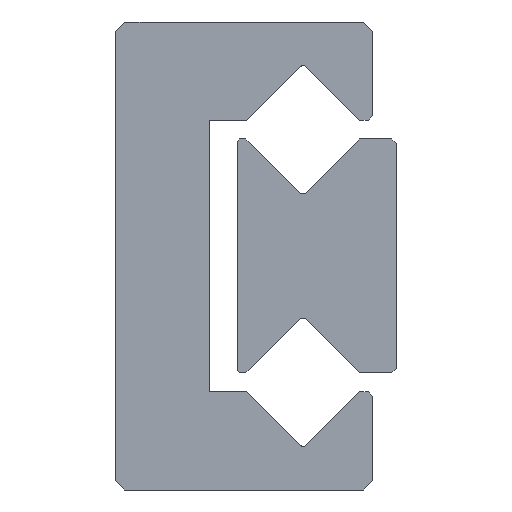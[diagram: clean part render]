
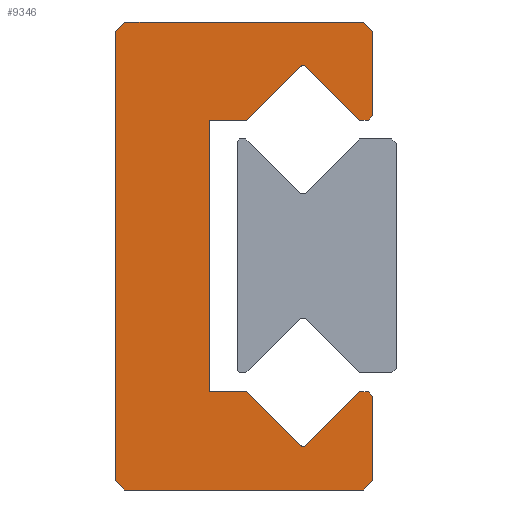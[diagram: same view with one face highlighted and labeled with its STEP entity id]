
A CAD part, left-side view. The second image highlights one B-rep face of the part: STEP entity #9346.
In plain terms, the highlighted planar face has unit normal (-1, 0, 0).
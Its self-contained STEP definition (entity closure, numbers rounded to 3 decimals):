
#298=CIRCLE('',#10139,0.1);
#304=CIRCLE('',#10151,0.1);
#1564=ORIENTED_EDGE('',*,*,#3904,.F.);
#1565=ORIENTED_EDGE('',*,*,#4358,.F.);
#1566=ORIENTED_EDGE('',*,*,#4351,.F.);
#1567=ORIENTED_EDGE('',*,*,#4348,.F.);
#1568=ORIENTED_EDGE('',*,*,#4345,.F.);
#1569=ORIENTED_EDGE('',*,*,#4342,.F.);
#1570=ORIENTED_EDGE('',*,*,#4339,.F.);
#1571=ORIENTED_EDGE('',*,*,#4336,.F.);
#1572=ORIENTED_EDGE('',*,*,#4333,.F.);
#1573=ORIENTED_EDGE('',*,*,#4330,.T.);
#1574=ORIENTED_EDGE('',*,*,#4327,.F.);
#1575=ORIENTED_EDGE('',*,*,#4324,.F.);
#1576=ORIENTED_EDGE('',*,*,#4321,.F.);
#1577=ORIENTED_EDGE('',*,*,#4314,.F.);
#1578=ORIENTED_EDGE('',*,*,#4311,.F.);
#1579=ORIENTED_EDGE('',*,*,#4308,.T.);
#1580=ORIENTED_EDGE('',*,*,#4305,.F.);
#1581=ORIENTED_EDGE('',*,*,#4302,.F.);
#1582=ORIENTED_EDGE('',*,*,#4299,.F.);
#1583=ORIENTED_EDGE('',*,*,#4296,.F.);
#1584=ORIENTED_EDGE('',*,*,#4293,.F.);
#1585=ORIENTED_EDGE('',*,*,#3908,.F.);
#3904=EDGE_CURVE('',#5336,#5337,#6312,.T.);
#3908=EDGE_CURVE('',#5337,#5340,#6316,.T.);
#4293=EDGE_CURVE('',#5340,#5724,#6453,.T.);
#4296=EDGE_CURVE('',#5724,#5726,#6456,.T.);
#4299=EDGE_CURVE('',#5726,#5728,#6459,.T.);
#4302=EDGE_CURVE('',#5728,#5730,#6462,.T.);
#4305=EDGE_CURVE('',#5730,#5732,#6465,.T.);
#4308=EDGE_CURVE('',#5734,#5732,#298,.T.);
#4311=EDGE_CURVE('',#5734,#5736,#6469,.T.);
#4314=EDGE_CURVE('',#5736,#5738,#6472,.T.);
#4321=EDGE_CURVE('',#5738,#5744,#6475,.T.);
#4324=EDGE_CURVE('',#5744,#5746,#6478,.T.);
#4327=EDGE_CURVE('',#5746,#5748,#6481,.T.);
#4330=EDGE_CURVE('',#5750,#5748,#304,.T.);
#4333=EDGE_CURVE('',#5750,#5752,#6485,.T.);
#4336=EDGE_CURVE('',#5752,#5754,#6488,.T.);
#4339=EDGE_CURVE('',#5754,#5756,#6491,.T.);
#4342=EDGE_CURVE('',#5756,#5758,#6494,.T.);
#4345=EDGE_CURVE('',#5758,#5760,#6497,.T.);
#4348=EDGE_CURVE('',#5760,#5762,#6500,.T.);
#4351=EDGE_CURVE('',#5762,#5764,#6503,.T.);
#4358=EDGE_CURVE('',#5764,#5336,#6506,.T.);
#5336=VERTEX_POINT('',#14213);
#5337=VERTEX_POINT('',#14214);
#5340=VERTEX_POINT('',#14222);
#5724=VERTEX_POINT('',#14992);
#5726=VERTEX_POINT('',#14998);
#5728=VERTEX_POINT('',#15004);
#5730=VERTEX_POINT('',#15010);
#5732=VERTEX_POINT('',#15016);
#5734=VERTEX_POINT('',#15022);
#5736=VERTEX_POINT('',#15028);
#5738=VERTEX_POINT('',#15034);
#5744=VERTEX_POINT('',#15048);
#5746=VERTEX_POINT('',#15054);
#5748=VERTEX_POINT('',#15060);
#5750=VERTEX_POINT('',#15066);
#5752=VERTEX_POINT('',#15072);
#5754=VERTEX_POINT('',#15078);
#5756=VERTEX_POINT('',#15084);
#5758=VERTEX_POINT('',#15090);
#5760=VERTEX_POINT('',#15096);
#5762=VERTEX_POINT('',#15102);
#5764=VERTEX_POINT('',#15108);
#6312=LINE('',#14212,#7148);
#6316=LINE('',#14221,#7152);
#6453=LINE('',#14991,#7289);
#6456=LINE('',#14997,#7292);
#6459=LINE('',#15003,#7295);
#6462=LINE('',#15009,#7298);
#6465=LINE('',#15015,#7301);
#6469=LINE('',#15027,#7305);
#6472=LINE('',#15033,#7308);
#6475=LINE('',#15047,#7311);
#6478=LINE('',#15053,#7314);
#6481=LINE('',#15059,#7317);
#6485=LINE('',#15071,#7321);
#6488=LINE('',#15077,#7324);
#6491=LINE('',#15083,#7327);
#6494=LINE('',#15089,#7330);
#6497=LINE('',#15095,#7333);
#6500=LINE('',#15101,#7336);
#6503=LINE('',#15107,#7339);
#6506=LINE('',#15121,#7342);
#7148=VECTOR('',#11103,1000.);
#7152=VECTOR('',#11109,1000.);
#7289=VECTOR('',#11744,1000.);
#7292=VECTOR('',#11749,1000.);
#7295=VECTOR('',#11754,1000.);
#7298=VECTOR('',#11759,1000.);
#7301=VECTOR('',#11764,1000.);
#7305=VECTOR('',#11776,1000.);
#7308=VECTOR('',#11781,1000.);
#7311=VECTOR('',#11794,1000.);
#7314=VECTOR('',#11799,1000.);
#7317=VECTOR('',#11804,1000.);
#7321=VECTOR('',#11816,1000.);
#7324=VECTOR('',#11821,1000.);
#7327=VECTOR('',#11826,1000.);
#7330=VECTOR('',#11831,1000.);
#7333=VECTOR('',#11836,1000.);
#7336=VECTOR('',#11841,1000.);
#7339=VECTOR('',#11846,1000.);
#7342=VECTOR('',#11859,1000.);
#8026=EDGE_LOOP('',(#1564,#1565,#1566,#1567,#1568,#1569,#1570,#1571,#1572,
#1573,#1574,#1575,#1576,#1577,#1578,#1579,#1580,#1581,#1582,#1583,#1584,
#1585));
#8600=FACE_BOUND('',#8026,.T.);
#9125=PLANE('',#10166);
#9346=ADVANCED_FACE('',(#8600),#9125,.F.);
#10139=AXIS2_PLACEMENT_3D('',#15021,#11769,#11770);
#10151=AXIS2_PLACEMENT_3D('',#15065,#11809,#11810);
#10166=AXIS2_PLACEMENT_3D('',#15124,#11863,#11864);
#11103=DIRECTION('',(0.,-0.707,0.707));
#11109=DIRECTION('',(0.,-1.,0.));
#11744=DIRECTION('',(0.,-0.707,-0.707));
#11749=DIRECTION('',(0.,0.,-1.));
#11754=DIRECTION('',(0.,0.707,-0.707));
#11759=DIRECTION('',(0.,1.,0.));
#11764=DIRECTION('',(0.,0.707,0.707));
#11769=DIRECTION('',(1.,0.,0.));
#11770=DIRECTION('',(0.,0.,-1.));
#11776=DIRECTION('',(0.,0.707,-0.707));
#11781=DIRECTION('',(0.,1.,0.));
#11794=DIRECTION('',(0.,0.,-1.));
#11799=DIRECTION('',(0.,-1.,0.));
#11804=DIRECTION('',(0.,-0.707,-0.707));
#11809=DIRECTION('',(1.,0.,0.));
#11810=DIRECTION('',(0.,0.,-1.));
#11816=DIRECTION('',(0.,-0.707,0.707));
#11821=DIRECTION('',(0.,-1.,0.));
#11826=DIRECTION('',(0.,-0.707,-0.707));
#11831=DIRECTION('',(0.,0.,-1.));
#11836=DIRECTION('',(0.,0.707,-0.707));
#11841=DIRECTION('',(0.,1.,0.));
#11846=DIRECTION('',(0.,0.707,0.707));
#11859=DIRECTION('',(0.,0.,1.));
#11863=DIRECTION('',(1.,0.,0.));
#11864=DIRECTION('',(0.,0.,-1.));
#14212=CARTESIAN_POINT('',(-7.5,5.5,4.8));
#14213=CARTESIAN_POINT('',(-7.5,5.5,4.8));
#14214=CARTESIAN_POINT('',(-7.5,5.3,5.));
#14221=CARTESIAN_POINT('',(-7.5,5.3,5.));
#14222=CARTESIAN_POINT('',(-7.5,0.2,5.));
#14991=CARTESIAN_POINT('',(-7.5,0.2,5.));
#14992=CARTESIAN_POINT('',(-7.5,0.,4.8));
#14997=CARTESIAN_POINT('',(-7.5,0.,4.8));
#14998=CARTESIAN_POINT('',(-7.5,0.,3.));
#15003=CARTESIAN_POINT('',(-7.5,0.,3.));
#15004=CARTESIAN_POINT('',(-7.5,0.1,2.9));
#15009=CARTESIAN_POINT('',(-7.5,0.1,2.9));
#15010=CARTESIAN_POINT('',(-7.5,0.286,2.9));
#15015=CARTESIAN_POINT('',(-7.5,0.286,2.9));
#15016=CARTESIAN_POINT('',(-7.5,1.422,4.036));
#15021=CARTESIAN_POINT('',(-7.5,1.493,3.965));
#15022=CARTESIAN_POINT('',(-7.5,1.563,4.036));
#15027=CARTESIAN_POINT('',(-7.5,1.563,4.036));
#15028=CARTESIAN_POINT('',(-7.5,2.699,2.9));
#15033=CARTESIAN_POINT('',(-7.5,2.699,2.9));
#15034=CARTESIAN_POINT('',(-7.5,3.5,2.9));
#15047=CARTESIAN_POINT('',(-7.5,3.5,2.9));
#15048=CARTESIAN_POINT('',(-7.5,3.5,-2.9));
#15053=CARTESIAN_POINT('',(-7.5,3.5,-2.9));
#15054=CARTESIAN_POINT('',(-7.5,2.699,-2.9));
#15059=CARTESIAN_POINT('',(-7.5,2.699,-2.9));
#15060=CARTESIAN_POINT('',(-7.5,1.563,-4.036));
#15065=CARTESIAN_POINT('',(-7.5,1.493,-3.965));
#15066=CARTESIAN_POINT('',(-7.5,1.422,-4.036));
#15071=CARTESIAN_POINT('',(-7.5,1.422,-4.036));
#15072=CARTESIAN_POINT('',(-7.5,0.286,-2.9));
#15077=CARTESIAN_POINT('',(-7.5,0.286,-2.9));
#15078=CARTESIAN_POINT('',(-7.5,0.1,-2.9));
#15083=CARTESIAN_POINT('',(-7.5,0.1,-2.9));
#15084=CARTESIAN_POINT('',(-7.5,0.,-3.));
#15089=CARTESIAN_POINT('',(-7.5,0.,-3.));
#15090=CARTESIAN_POINT('',(-7.5,0.,-4.8));
#15095=CARTESIAN_POINT('',(-7.5,0.,-4.8));
#15096=CARTESIAN_POINT('',(-7.5,0.2,-5.));
#15101=CARTESIAN_POINT('',(-7.5,0.2,-5.));
#15102=CARTESIAN_POINT('',(-7.5,5.3,-5.));
#15107=CARTESIAN_POINT('',(-7.5,5.3,-5.));
#15108=CARTESIAN_POINT('',(-7.5,5.5,-4.8));
#15121=CARTESIAN_POINT('',(-7.5,5.5,-4.8));
#15124=CARTESIAN_POINT('',(-7.5,1.493,3.965));
